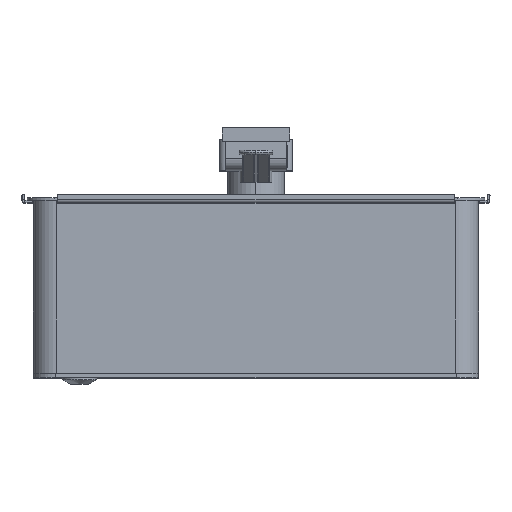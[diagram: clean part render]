
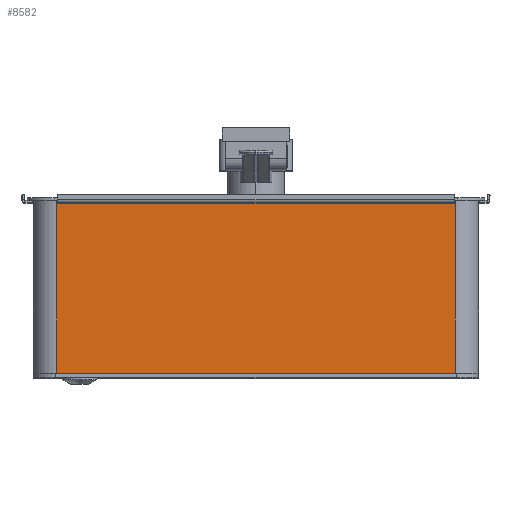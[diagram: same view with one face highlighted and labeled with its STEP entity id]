
A CAD part, top view. The second image highlights one B-rep face of the part: STEP entity #8582.
In plain terms, the highlighted planar face has unit normal (0, 0, 1) as drawn and (0, 1, 0) by its records, which use the part's own axes.
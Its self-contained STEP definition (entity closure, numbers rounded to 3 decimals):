
#24 = VECTOR ( 'NONE', #9555, 1000. ) ;
#103 = VERTEX_POINT ( 'NONE', #4408 ) ;
#498 = VECTOR ( 'NONE', #15222, 1000. ) ;
#680 = CARTESIAN_POINT ( 'NONE',  ( -175., 0., -73.8 ) ) ;
#967 = CARTESIAN_POINT ( 'NONE',  ( -176., 0., -76.3 ) ) ;
#1083 = DIRECTION ( 'NONE',  ( 0., 0., -1. ) ) ;
#1412 = LINE ( 'NONE', #9114, #7057 ) ;
#1584 = VECTOR ( 'NONE', #5994, 1000. ) ;
#1685 = ORIENTED_EDGE ( 'NONE', *, *, #8943, .T. ) ;
#1711 = ORIENTED_EDGE ( 'NONE', *, *, #1952, .T. ) ;
#1952 = EDGE_CURVE ( 'NONE', #2701, #8322, #6767, .T. ) ;
#1966 = AXIS2_PLACEMENT_3D ( 'NONE', #10141, #6959, #6075 ) ;
#2273 = DIRECTION ( 'NONE',  ( 0., 0., -1. ) ) ;
#2470 = ORIENTED_EDGE ( 'NONE', *, *, #5507, .T. ) ;
#2594 = VECTOR ( 'NONE', #12905, 1000. ) ;
#2701 = VERTEX_POINT ( 'NONE', #967 ) ;
#2841 = CARTESIAN_POINT ( 'NONE',  ( 176., 0., 76.3 ) ) ;
#2951 = ORIENTED_EDGE ( 'NONE', *, *, #5922, .T. ) ;
#3207 = CARTESIAN_POINT ( 'NONE',  ( -176., 0., -76.3 ) ) ;
#3736 = VECTOR ( 'NONE', #5671, 1000. ) ;
#3878 = CARTESIAN_POINT ( 'NONE',  ( -175., 0., -76.3 ) ) ;
#3971 = CARTESIAN_POINT ( 'NONE',  ( 175., 0., -73.8 ) ) ;
#4408 = CARTESIAN_POINT ( 'NONE',  ( -175., 0., -76.249 ) ) ;
#4928 = CARTESIAN_POINT ( 'NONE',  ( 175., 0., -73.8 ) ) ;
#4948 = EDGE_CURVE ( 'NONE', #8322, #13328, #11462, .T. ) ;
#5179 = LINE ( 'NONE', #5974, #1584 ) ;
#5392 = ORIENTED_EDGE ( 'NONE', *, *, #9075, .T. ) ;
#5419 = LINE ( 'NONE', #7214, #2594 ) ;
#5507 = EDGE_CURVE ( 'NONE', #14158, #2701, #6950, .T. ) ;
#5671 = DIRECTION ( 'NONE',  ( -1., 0., 0. ) ) ;
#5751 = VERTEX_POINT ( 'NONE', #8360 ) ;
#5922 = EDGE_CURVE ( 'NONE', #11667, #5751, #13149, .T. ) ;
#5974 = CARTESIAN_POINT ( 'NONE',  ( -175., 0., -73.8 ) ) ;
#5994 = DIRECTION ( 'NONE',  ( 0., 0., -1. ) ) ;
#6075 = DIRECTION ( 'NONE',  ( 0., 0., 1. ) ) ;
#6345 = LINE ( 'NONE', #4928, #12353 ) ;
#6350 = ORIENTED_EDGE ( 'NONE', *, *, #14711, .F. ) ;
#6388 = VECTOR ( 'NONE', #11365, 1000. ) ;
#6401 = DIRECTION ( 'NONE',  ( 0., 0., -1. ) ) ;
#6445 = VECTOR ( 'NONE', #6401, 1000. ) ;
#6459 = ORIENTED_EDGE ( 'NONE', *, *, #7420, .F. ) ;
#6621 = ORIENTED_EDGE ( 'NONE', *, *, #11953, .T. ) ;
#6767 = LINE ( 'NONE', #3207, #24 ) ;
#6894 = LINE ( 'NONE', #13065, #498 ) ;
#6950 = LINE ( 'NONE', #14348, #3736 ) ;
#6959 = DIRECTION ( 'NONE',  ( 0., 1., 0. ) ) ;
#7042 = ORIENTED_EDGE ( 'NONE', *, *, #4948, .T. ) ;
#7057 = VECTOR ( 'NONE', #2273, 1000. ) ;
#7214 = CARTESIAN_POINT ( 'NONE',  ( -175., 0., -73.8 ) ) ;
#7420 = EDGE_CURVE ( 'NONE', #10884, #5751, #6345, .T. ) ;
#7424 = CARTESIAN_POINT ( 'NONE',  ( 176., 0., -76.3 ) ) ;
#7813 = FACE_OUTER_BOUND ( 'NONE', #11165, .T. ) ;
#7997 = EDGE_CURVE ( 'NONE', #11074, #10766, #6894, .T. ) ;
#8322 = VERTEX_POINT ( 'NONE', #10096 ) ;
#8360 = CARTESIAN_POINT ( 'NONE',  ( 175., 0., -76.3 ) ) ;
#8582 = ADVANCED_FACE ( 'NONE', ( #7813 ), #12798, .T. ) ;
#8727 = ORIENTED_EDGE ( 'NONE', *, *, #7997, .F. ) ;
#8943 = EDGE_CURVE ( 'NONE', #13328, #11667, #1412, .T. ) ;
#9075 = EDGE_CURVE ( 'NONE', #11074, #103, #5179, .T. ) ;
#9114 = CARTESIAN_POINT ( 'NONE',  ( 176., 0., 76.3 ) ) ;
#9555 = DIRECTION ( 'NONE',  ( 0., 0., 1. ) ) ;
#9704 = CARTESIAN_POINT ( 'NONE',  ( 175., 0., -76.249 ) ) ;
#10096 = CARTESIAN_POINT ( 'NONE',  ( -176., 0., 76.3 ) ) ;
#10141 = CARTESIAN_POINT ( 'NONE',  ( 0., 0., 0. ) ) ;
#10333 = VECTOR ( 'NONE', #13900, 1000. ) ;
#10766 = VERTEX_POINT ( 'NONE', #15010 ) ;
#10884 = VERTEX_POINT ( 'NONE', #9704 ) ;
#11074 = VERTEX_POINT ( 'NONE', #680 ) ;
#11165 = EDGE_LOOP ( 'NONE', ( #5392, #6621, #2470, #1711, #7042, #1685, #2951, #6459, #6350, #8727 ) ) ;
#11365 = DIRECTION ( 'NONE',  ( -1., 0., 0. ) ) ;
#11462 = LINE ( 'NONE', #13512, #10333 ) ;
#11667 = VERTEX_POINT ( 'NONE', #7424 ) ;
#11953 = EDGE_CURVE ( 'NONE', #103, #14158, #5419, .T. ) ;
#12353 = VECTOR ( 'NONE', #1083, 1000. ) ;
#12798 = PLANE ( 'NONE',  #1966 ) ;
#12829 = LINE ( 'NONE', #3971, #6445 ) ;
#12905 = DIRECTION ( 'NONE',  ( 0., 0., -1. ) ) ;
#13065 = CARTESIAN_POINT ( 'NONE',  ( -175., 0., -73.8 ) ) ;
#13149 = LINE ( 'NONE', #13910, #6388 ) ;
#13328 = VERTEX_POINT ( 'NONE', #2841 ) ;
#13512 = CARTESIAN_POINT ( 'NONE',  ( -196.5, 0., 76.3 ) ) ;
#13900 = DIRECTION ( 'NONE',  ( 1., 0., 0. ) ) ;
#13910 = CARTESIAN_POINT ( 'NONE',  ( -196.5, 0., -76.3 ) ) ;
#14158 = VERTEX_POINT ( 'NONE', #3878 ) ;
#14348 = CARTESIAN_POINT ( 'NONE',  ( -196.5, 0., -76.3 ) ) ;
#14711 = EDGE_CURVE ( 'NONE', #10766, #10884, #12829, .T. ) ;
#15010 = CARTESIAN_POINT ( 'NONE',  ( 175., 0., -73.8 ) ) ;
#15222 = DIRECTION ( 'NONE',  ( 1., 0., 0. ) ) ;
